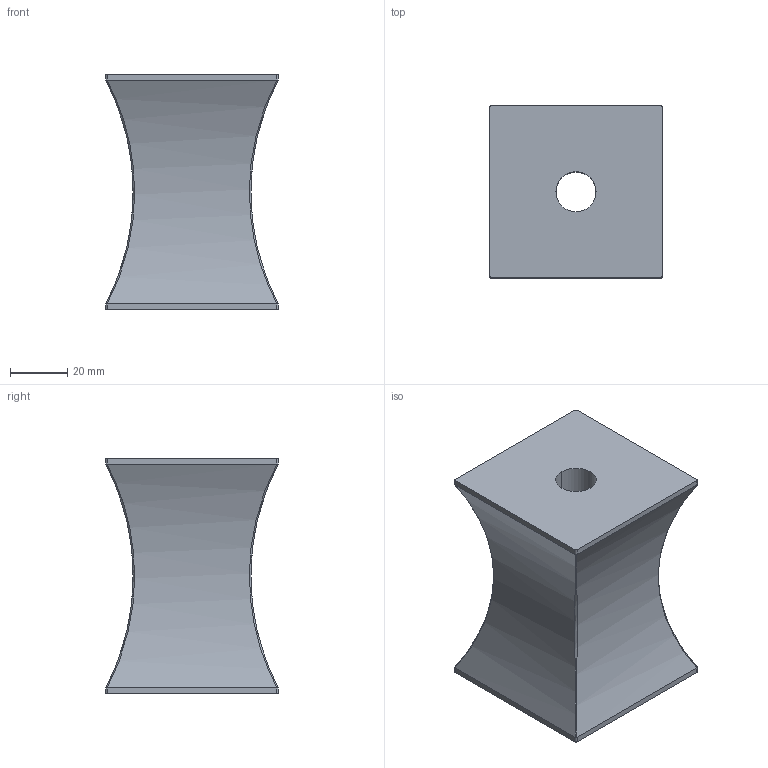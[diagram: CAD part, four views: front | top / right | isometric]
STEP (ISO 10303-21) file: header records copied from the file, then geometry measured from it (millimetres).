
FILE_DESCRIPTION(/* description */ (''),/* implementation_level */ '2;1');
FILE_NAME(/* name */ '3d_qx60-82_06518_r00.stp',/* time_stamp */ '2011-01-10T14:11:39+09:00',/* author */ ('MISUMI'),/* organization */ (''),/* preprocessor_version */ 'ST-DEVELOPER v11',/* originating_system */ 'UGS - NX 5.0',/* authorisation */ '');
FILE_SCHEMA (('CONFIG_CONTROL_DESIGN'));
Length unit declared in the file: millimetre
Products named in the file (1): 3d_qx60-82_06518_r00
Bounding box: 60 x 60 x 82 mm (x, y, z)
Volume: 177875.1 mm3; surface area: 26755 mm2
Topology: 1 solids, 1 shells, 28 faces, 78 edges, 52 vertices
Faces by surface type: cylinder 14, plane 10, bspline 4
Entity records: 4532 total; most frequent: CARTESIAN_POINT 3783, ORIENTED_EDGE 156, DIRECTION 108, EDGE_CURVE 78, VERTEX_POINT 52, AXIS2_PLACEMENT_3D 37, LINE 34, VECTOR 34
